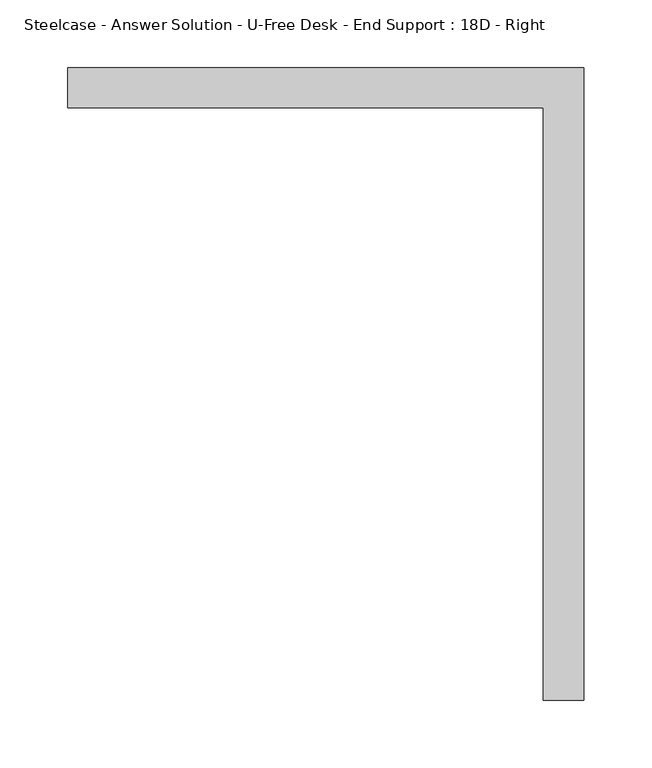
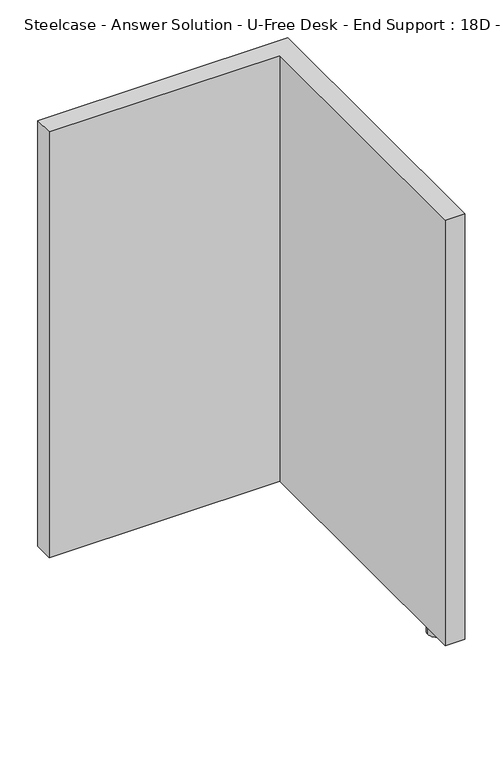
"""IFC4 building model written with IfcOpenShell, lengths in millimetres: furniture geometry, Steelcase - Answer Solution - U-Free Desk - End Support : 18D - Right."""

from ifc_helpers import new_model, si_unit, point, frame, frame_2d, origin, origin_with_axes, place, context, project, spatial, polyline, circle_curve, trimmed, segment, composite_curve, outline, extrude, source, transform, mapped, element, save


def steelcase_answer_solution_u_free_desk_end_support_18d_right_9118059c(model_context):
    return source(origin(), model_context, "Body", "SweptSolid", [
        extrude(outline(composite_curve([segment(trimmed(circle_curve(frame_2d((369.0626362, -418.4287813)), 12.7), [point((356.3626362, -418.4287813))], [point((381.7626362, -418.4287813))], False, "CARTESIAN"), True, "CONTINUOUS"), segment(trimmed(circle_curve(frame_2d((369.0626362, -418.4287813)), 12.7), [point((381.7626362, -418.4287813))], [point((356.3626362, -418.4287813))], False, "CARTESIAN"), True, "CONTINUOUS")], self_intersect=False)), origin_with_axes(), (0.0, 0.0, 1.0), 12.7000004),
        extrude(outline(polyline([(384.1009381, -2.0011718), (384.1009381, -468.8531718), (354.3067394, -468.8531718), (354.3067394, -31.6936406), (3.1009381, -31.6936406), (3.1009381, -2.0011718), (384.1009381, -2.0011718)])), frame((0.0, 0.0, 12.7000004), z_axis=(0.0, 0.0, 1.0), x_axis=(1.0, 0.0, 0.0)), (0.0, 0.0, 1.0), 685.8),
    ])


if __name__ == "__main__":
    model = new_model("IFC4")
    model_context = context("Model", 3, world=origin())
    ifc_project = project(units=[si_unit("LENGTHUNIT", "METRE", prefix="MILLI")], contexts=[model_context])
    site = spatial("IfcSite", under=ifc_project)
    building = spatial("IfcBuilding", under=site)
    placement = place(None, origin())
    steelcase_answer_solution_u_free_desk_end_support_18d_right_shape = steelcase_answer_solution_u_free_desk_end_support_18d_right_9118059c(model_context)
    element("IfcFurniture", 1, ObjectType="Steelcase - Answer Solution - U-Free Desk - End Support : 18D - Right", at=placement, inside=building, context=model_context, shape_type="MappedRepresentation", body=[
        mapped(steelcase_answer_solution_u_free_desk_end_support_18d_right_shape, transform((0.0, 0.0, 0.0), x_axis=(1.0, 0.0, 0.0), y_axis=(0.0, 1.0, 0.0), z_axis=(0.0, 0.0, 1.0))),
    ])
    save(model, "model.ifc")
